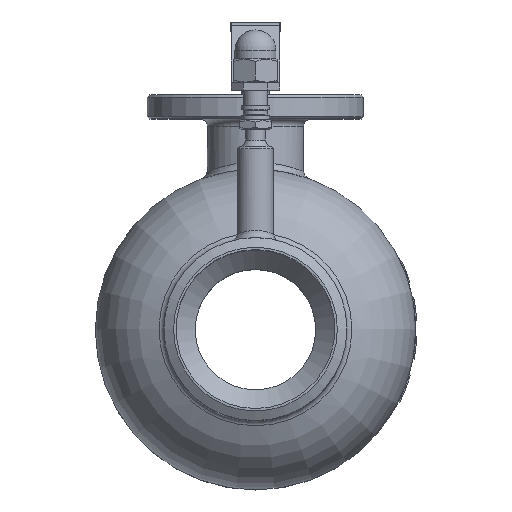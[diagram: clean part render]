
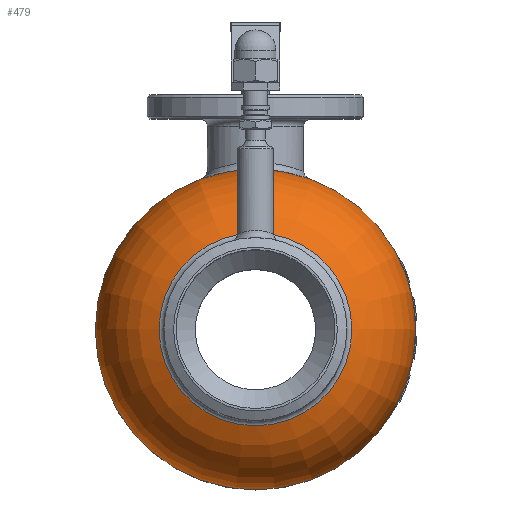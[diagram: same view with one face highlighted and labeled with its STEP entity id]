
A CAD part, top view. The second image highlights one B-rep face of the part: STEP entity #479.
In plain terms, the highlighted toroidal (fillet/blend) face has major radius 27.579 mm and minor radius 38.921 mm.
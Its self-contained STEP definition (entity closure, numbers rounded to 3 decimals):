
#479=ADVANCED_FACE('',(#2789,#2791),#2793,.T.);
#2789=FACE_OUTER_BOUND('',#2790,.T.);
#2790=EDGE_LOOP('',(#29555));
#2791=FACE_BOUND('',#2792,.T.);
#2792=EDGE_LOOP('',(#29556,#29557));
#2793=DEGENERATE_TOROIDAL_SURFACE('',#2794,27.579,38.921,.T.);
#2794=AXIS2_PLACEMENT_3D('',#2795,#2796,#2797);
#2795=CARTESIAN_POINT('',(0.,0.,37.5));
#2796=DIRECTION('',(0.,0.,1.));
#2797=DIRECTION('',(1.,0.,0.));
#29555=ORIENTED_EDGE('',*,*,#35627,.T.);
#29556=ORIENTED_EDGE('',*,*,#35906,.T.);
#29557=ORIENTED_EDGE('',*,*,#35907,.T.);
#35627=EDGE_CURVE('',#38059,#38059,#38060,.T.);
#35906=EDGE_CURVE('',#38617,#38618,#38619,.T.);
#35907=EDGE_CURVE('',#38618,#38617,#38620,.T.);
#38059=VERTEX_POINT('',#48302);
#38060=CIRCLE('',#48303,66.5);
#38617=VERTEX_POINT('',#57068);
#38618=VERTEX_POINT('',#57069);
#38619=CIRCLE('',#57070,40.04);
#38620=CIRCLE('',#57074,40.04);
#48302=CARTESIAN_POINT('',(66.5,0.,37.5));
#48303=AXIS2_PLACEMENT_3D('',#48304,#48305,#48306);
#48304=CARTESIAN_POINT('',(0.,0.,37.5));
#48305=DIRECTION('',(0.,0.,1.));
#48306=DIRECTION('',(1.,0.,0.));
#57068=CARTESIAN_POINT('',(40.04,0.,74.373));
#57069=CARTESIAN_POINT('',(-40.04,0.,74.373));
#57070=AXIS2_PLACEMENT_3D('',#57071,#57072,#57073);
#57071=CARTESIAN_POINT('',(0.,0.,74.373));
#57072=DIRECTION('',(0.,0.,-1.));
#57073=DIRECTION('',(1.,0.,0.));
#57074=AXIS2_PLACEMENT_3D('',#57075,#57076,#57077);
#57075=CARTESIAN_POINT('',(0.,0.,74.373));
#57076=DIRECTION('',(0.,0.,-1.));
#57077=DIRECTION('',(-1.,0.,0.));
